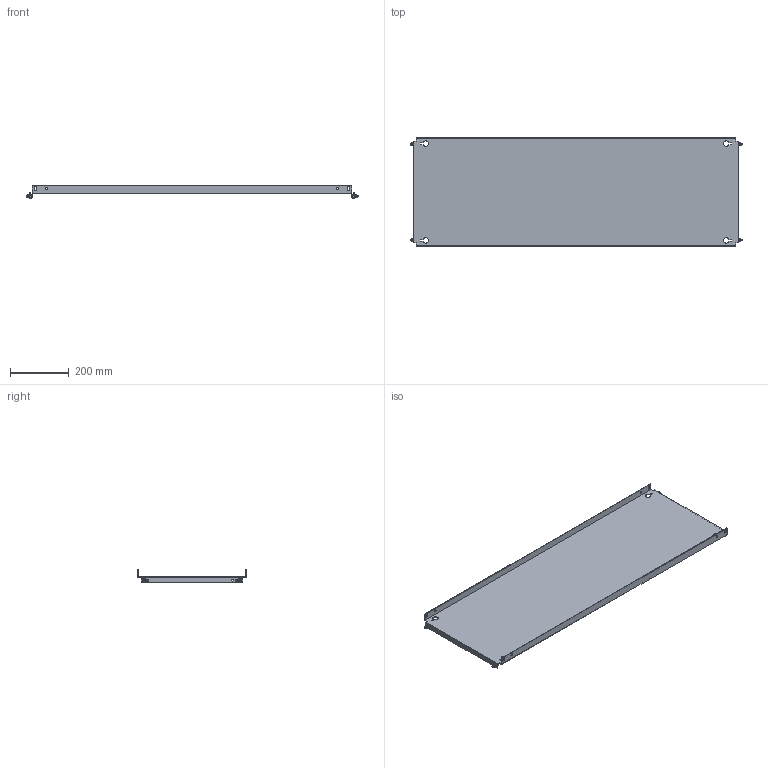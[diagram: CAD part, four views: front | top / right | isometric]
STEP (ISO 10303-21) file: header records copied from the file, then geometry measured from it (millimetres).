
FILE_DESCRIPTION(('Open CASCADE Model'),'2;1');
FILE_NAME('Open CASCADE Shape Model','2025-02-24T17:07:11',('Author'),( 'Open CASCADE'),'Open CASCADE STEP processor 7.8','Open CASCADE 7.8' ,'Unknown');
FILE_SCHEMA(('AUTOMOTIVE_DESIGN { 1 0 10303 214 1 1 1 1 }'));
Length unit declared in the file: millimetre
Products named in the file (4): Compound1; Solid1; Solid2; Solid3
Assembly tree (9 placements, depth 2):
  Compound1
    Solid1
    Solid2  x4
    Solid3  x4
Bounding box: 1127 x 369 x 42.59 mm (x, y, z)
Volume: 1170344.9 mm3; surface area: 946270 mm2
Topology: 9 solids, 9 shells, 308 faces, 753 edges, 467 vertices
Faces by surface type: plane 150, cone 68, bspline 48, cylinder 30, torus 12
Full cylindrical faces by diameter (mm): 5 x4, 6 x8, 7 x14
Entity records: 4930 total; most frequent: CARTESIAN_POINT 1377, ORIENTED_EDGE 756, DIRECTION 642, EDGE_CURVE 378, VERTEX_POINT 245, LINE 216, VECTOR 216, AXIS2_PLACEMENT_3D 213
